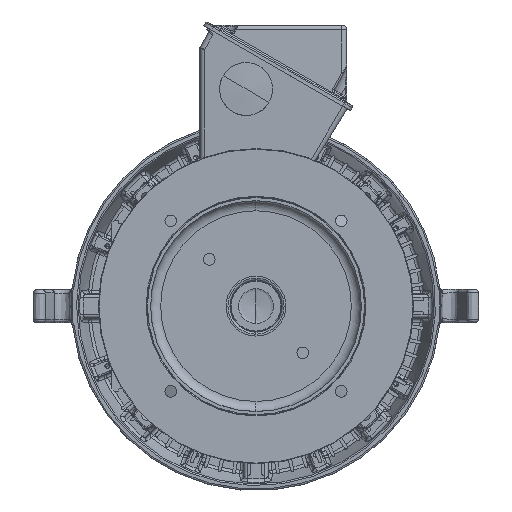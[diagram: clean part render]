
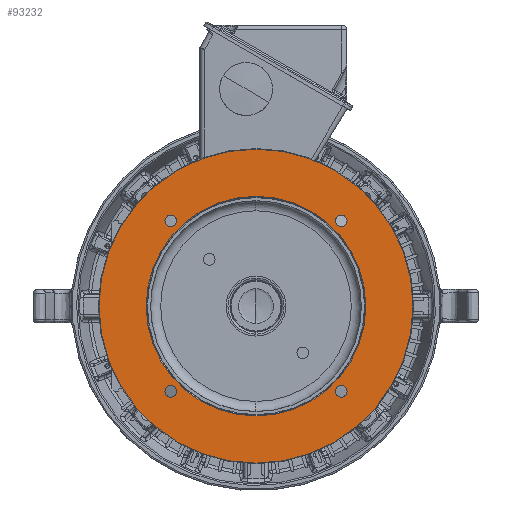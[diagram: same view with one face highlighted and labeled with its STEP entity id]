
A CAD part, front view. The second image highlights one B-rep face of the part: STEP entity #93232.
In plain terms, the highlighted planar face has unit normal (0, -1, 0) as drawn and (0, 0, -1) by its records, which use the part's own axes.
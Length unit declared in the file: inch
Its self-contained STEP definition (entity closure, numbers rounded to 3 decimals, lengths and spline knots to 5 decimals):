
#75313=CARTESIAN_POINT('',(0.,0.,-4.57));
#75314=DIRECTION('',(0.,0.,1.));
#75315=DIRECTION('',(0.,-1.,0.));
#75316=AXIS2_PLACEMENT_3D('',#75313,#75314,#75315);
#75318=CARTESIAN_POINT('',(0.,0.,-4.57));
#75319=DIRECTION('',(0.,0.,1.));
#75320=DIRECTION('',(0.,1.,0.));
#75321=AXIS2_PLACEMENT_3D('',#75318,#75319,#75320);
#75323=CARTESIAN_POINT('',(3.22617,3.22617,-4.57));
#75324=DIRECTION('',(0.,0.,1.));
#75325=DIRECTION('',(1.,0.,0.));
#75326=AXIS2_PLACEMENT_3D('',#75323,#75324,#75325);
#75328=CARTESIAN_POINT('',(3.22617,3.22617,-4.57));
#75329=DIRECTION('',(0.,0.,1.));
#75330=DIRECTION('',(-1.,0.,0.));
#75331=AXIS2_PLACEMENT_3D('',#75328,#75329,#75330);
#75333=CARTESIAN_POINT('',(3.22617,-3.22617,-4.57));
#75334=DIRECTION('',(0.,0.,1.));
#75335=DIRECTION('',(1.,0.,0.));
#75336=AXIS2_PLACEMENT_3D('',#75333,#75334,#75335);
#75338=CARTESIAN_POINT('',(3.22617,-3.22617,-4.57));
#75339=DIRECTION('',(0.,0.,1.));
#75340=DIRECTION('',(-1.,0.,0.));
#75341=AXIS2_PLACEMENT_3D('',#75338,#75339,#75340);
#75343=CARTESIAN_POINT('',(-3.22617,-3.22617,-4.57));
#75344=DIRECTION('',(0.,0.,1.));
#75345=DIRECTION('',(1.,0.,0.));
#75346=AXIS2_PLACEMENT_3D('',#75343,#75344,#75345);
#75348=CARTESIAN_POINT('',(-3.22617,-3.22617,-4.57));
#75349=DIRECTION('',(0.,0.,1.));
#75350=DIRECTION('',(-1.,0.,0.));
#75351=AXIS2_PLACEMENT_3D('',#75348,#75349,#75350);
#75353=CARTESIAN_POINT('',(-3.22617,3.22617,-4.57));
#75354=DIRECTION('',(0.,0.,1.));
#75355=DIRECTION('',(1.,0.,0.));
#75356=AXIS2_PLACEMENT_3D('',#75353,#75354,#75355);
#75358=CARTESIAN_POINT('',(-3.22617,3.22617,-4.57));
#75359=DIRECTION('',(0.,0.,1.));
#75360=DIRECTION('',(-1.,0.,0.));
#75361=AXIS2_PLACEMENT_3D('',#75358,#75359,#75360);
#75371=CARTESIAN_POINT('',(0.,0.,-4.57));
#75372=DIRECTION('',(0.,0.,-1.));
#75373=DIRECTION('',(0.,1.,0.));
#75374=AXIS2_PLACEMENT_3D('',#75371,#75372,#75373);
#75376=CARTESIAN_POINT('',(0.,0.,-4.57));
#75377=DIRECTION('',(0.,0.,1.));
#75378=DIRECTION('',(0.,1.,0.));
#75379=AXIS2_PLACEMENT_3D('',#75376,#75377,#75378);
#90566=CARTESIAN_POINT('',(0.,-5.94297,-4.57));
#90567=CARTESIAN_POINT('',(0.,5.94297,-4.57));
#90568=VERTEX_POINT('',#90566);
#90569=VERTEX_POINT('',#90567);
#90578=CARTESIAN_POINT('',(0.,4.156,-4.57));
#90579=VERTEX_POINT('',#90578);
#90590=CARTESIAN_POINT('',(0.,-4.156,-4.57));
#90591=VERTEX_POINT('',#90590);
#90654=CARTESIAN_POINT('',(3.44517,3.22617,-4.57));
#90655=CARTESIAN_POINT('',(3.00717,3.22617,-4.57));
#90656=VERTEX_POINT('',#90654);
#90657=VERTEX_POINT('',#90655);
#90662=CARTESIAN_POINT('',(3.44517,-3.22617,-4.57));
#90663=CARTESIAN_POINT('',(3.00717,-3.22617,-4.57));
#90664=VERTEX_POINT('',#90662);
#90665=VERTEX_POINT('',#90663);
#90670=CARTESIAN_POINT('',(-3.00717,-3.22617,-4.57));
#90671=CARTESIAN_POINT('',(-3.44517,-3.22617,-4.57));
#90672=VERTEX_POINT('',#90670);
#90673=VERTEX_POINT('',#90671);
#90678=CARTESIAN_POINT('',(-3.00717,3.22617,-4.57));
#90679=CARTESIAN_POINT('',(-3.44517,3.22617,-4.57));
#90680=VERTEX_POINT('',#90678);
#90681=VERTEX_POINT('',#90679);
#93192=CARTESIAN_POINT('',(0.,0.,-4.57));
#93193=DIRECTION('',(0.,0.,1.));
#93194=DIRECTION('',(0.,1.,0.));
#93195=AXIS2_PLACEMENT_3D('',#93192,#93193,#93194);
#93196=PLANE('',#93195);
#93197=ORIENTED_EDGE('',*,*,#93182,.T.);
#93199=ORIENTED_EDGE('',*,*,#93198,.T.);
#93200=EDGE_LOOP('',(#93197,#93199));
#93201=FACE_OUTER_BOUND('',#93200,.F.);
#93203=ORIENTED_EDGE('',*,*,#93202,.T.);
#93205=ORIENTED_EDGE('',*,*,#93204,.F.);
#93206=EDGE_LOOP('',(#93203,#93205));
#93207=FACE_BOUND('',#93206,.F.);
#93209=ORIENTED_EDGE('',*,*,#93208,.F.);
#93211=ORIENTED_EDGE('',*,*,#93210,.F.);
#93212=EDGE_LOOP('',(#93209,#93211));
#93213=FACE_BOUND('',#93212,.F.);
#93215=ORIENTED_EDGE('',*,*,#93214,.F.);
#93217=ORIENTED_EDGE('',*,*,#93216,.F.);
#93218=EDGE_LOOP('',(#93215,#93217));
#93219=FACE_BOUND('',#93218,.F.);
#93221=ORIENTED_EDGE('',*,*,#93220,.F.);
#93223=ORIENTED_EDGE('',*,*,#93222,.F.);
#93224=EDGE_LOOP('',(#93221,#93223));
#93225=FACE_BOUND('',#93224,.F.);
#93227=ORIENTED_EDGE('',*,*,#93226,.F.);
#93229=ORIENTED_EDGE('',*,*,#93228,.F.);
#93230=EDGE_LOOP('',(#93227,#93229));
#93231=FACE_BOUND('',#93230,.F.);
#93232=ADVANCED_FACE('',(#93201,#93207,#93213,#93219,#93225,#93231),#93196,.F.);
#75317=CIRCLE('',#75316,5.94297);
#75322=CIRCLE('',#75321,5.94297);
#75327=CIRCLE('',#75326,0.219);
#75332=CIRCLE('',#75331,0.219);
#75337=CIRCLE('',#75336,0.219);
#75342=CIRCLE('',#75341,0.219);
#75347=CIRCLE('',#75346,0.219);
#75352=CIRCLE('',#75351,0.219);
#75357=CIRCLE('',#75356,0.219);
#75362=CIRCLE('',#75361,0.219);
#75375=CIRCLE('',#75374,4.156);
#75380=CIRCLE('',#75379,4.156);
#93182=EDGE_CURVE('',#90568,#90569,#75317,.T.);
#93198=EDGE_CURVE('',#90569,#90568,#75322,.T.);
#93202=EDGE_CURVE('',#90579,#90591,#75375,.T.);
#93204=EDGE_CURVE('',#90579,#90591,#75380,.T.);
#93208=EDGE_CURVE('',#90656,#90657,#75327,.T.);
#93210=EDGE_CURVE('',#90657,#90656,#75332,.T.);
#93214=EDGE_CURVE('',#90664,#90665,#75337,.T.);
#93216=EDGE_CURVE('',#90665,#90664,#75342,.T.);
#93220=EDGE_CURVE('',#90672,#90673,#75347,.T.);
#93222=EDGE_CURVE('',#90673,#90672,#75352,.T.);
#93226=EDGE_CURVE('',#90680,#90681,#75357,.T.);
#93228=EDGE_CURVE('',#90681,#90680,#75362,.T.);
